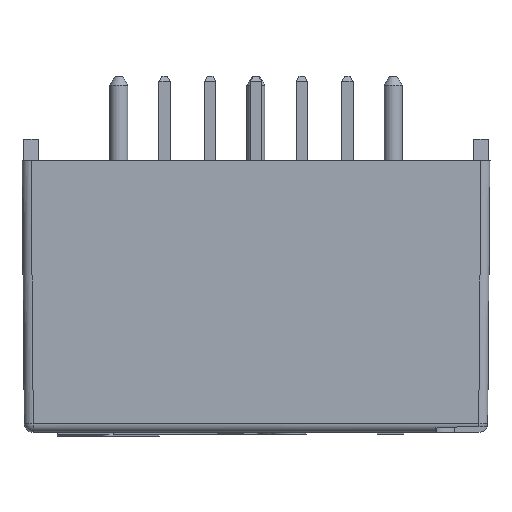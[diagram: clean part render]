
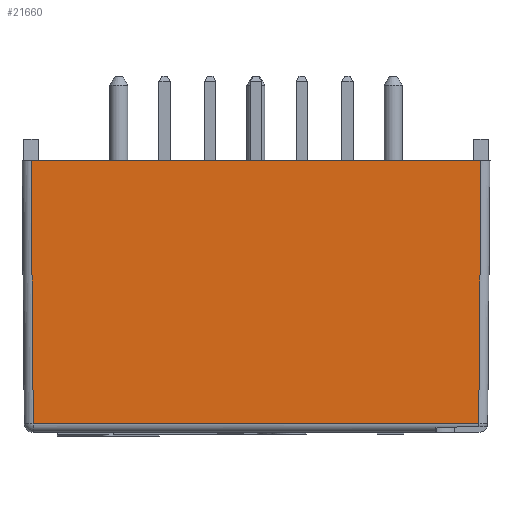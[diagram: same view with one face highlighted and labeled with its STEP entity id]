
A CAD part, left-side view. The second image highlights one B-rep face of the part: STEP entity #21660.
In plain terms, the highlighted planar face has unit normal (-1, 0, -0.009).
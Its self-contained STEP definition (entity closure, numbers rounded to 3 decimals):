
#9790=CARTESIAN_POINT('',(-14.6,-12.5,15.1));
#9800=VERTEX_POINT('',#9790);
#9830=CARTESIAN_POINT('',(-14.6,0.,15.1));
#9840=DIRECTION('',(0.,1.,0.));
#9850=VECTOR('',#9840,1.);
#9860=LINE('',#9830,#9850);
#9870=CARTESIAN_POINT('',(-14.6,12.5,15.1));
#9880=VERTEX_POINT('',#9870);
#9890=EDGE_CURVE('',#9800,#9880,#9860,.T.);
#21360=CARTESIAN_POINT('',(-14.468,-12.5,0.001)
);
#21370=DIRECTION('',(-1.,0.,-0.009));
#21380=DIRECTION('',(0.,1.,0.));
#21390=AXIS2_PLACEMENT_3D('',#21360,#21370,#21380);
#21400=PLANE('',#21390);
#21410=CARTESIAN_POINT('',(-14.468,-12.368,
-0.004));
#21420=DIRECTION('',(0.009,0.009,
-1.));
#21430=VECTOR('',#21420,1.);
#21440=LINE('',#21410,#21430);
#21450=CARTESIAN_POINT('',(-14.473,-12.373,
0.496));
#21460=VERTEX_POINT('',#21450);
#21470=EDGE_CURVE('',#9800,#21460,#21440,.T.);
#21480=ORIENTED_EDGE('',*,*,#21470,.F.);
#21490=CARTESIAN_POINT('',(-14.473,0.,0.496));
#21500=DIRECTION('',(0.,-1.,0.));
#21510=VECTOR('',#21500,1.);
#21520=LINE('',#21490,#21510);
#21530=CARTESIAN_POINT('',(-14.473,12.373,
0.496));
#21540=VERTEX_POINT('',#21530);
#21550=EDGE_CURVE('',#21540,#21460,#21520,.T.);
#21560=ORIENTED_EDGE('',*,*,#21550,.T.);
#21570=CARTESIAN_POINT('',(-14.468,12.368,
-0.004));
#21580=DIRECTION('',(-0.009,0.009,
1.));
#21590=VECTOR('',#21580,1.);
#21600=LINE('',#21570,#21590);
#21610=EDGE_CURVE('',#21540,#9880,#21600,.T.);
#21620=ORIENTED_EDGE('',*,*,#21610,.F.);
#21630=ORIENTED_EDGE('',*,*,#9890,.T.);
#21640=EDGE_LOOP('',(#21630,#21620,#21560,#21480));
#21650=FACE_OUTER_BOUND('',#21640,.T.);
#21660=ADVANCED_FACE('',(#21650),#21400,.T.);
